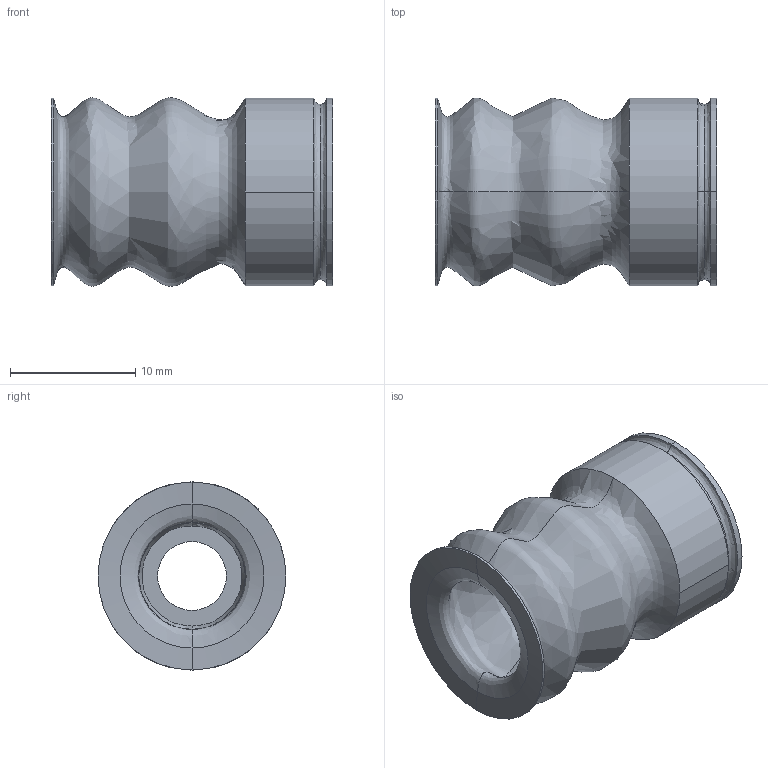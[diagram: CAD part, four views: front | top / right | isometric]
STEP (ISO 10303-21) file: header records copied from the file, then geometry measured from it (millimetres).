
FILE_DESCRIPTION (( 'STEP AP214' ), '1' );
FILE_NAME ('VSH-15R-3.STEP', '2019-11-14T01:54:27', ( '微软用户' ), ( '微软中国' ), 'SwSTEP 2.0', 'SolidWorks 2016', '' );
FILE_SCHEMA (( 'AUTOMOTIVE_DESIGN' ));
Length unit declared in the file: millimetre
Products named in the file (1): VSH-15R-3
Bounding box: 22.5 x 15 x 15.04 mm (x, y, z)
Volume: 1595.6 mm3; surface area: 2275.4 mm2
Topology: 1 solids, 1 shells, 25 faces, 56 edges, 34 vertices
Faces by surface type: cylinder 12, bspline 8, plane 3, cone 2
Entity records: 894 total; most frequent: CARTESIAN_POINT 320, DIRECTION 118, ORIENTED_EDGE 112, EDGE_CURVE 56, AXIS2_PLACEMENT_3D 52, VERTEX_POINT 34, CIRCLE 34, EDGE_LOOP 28
